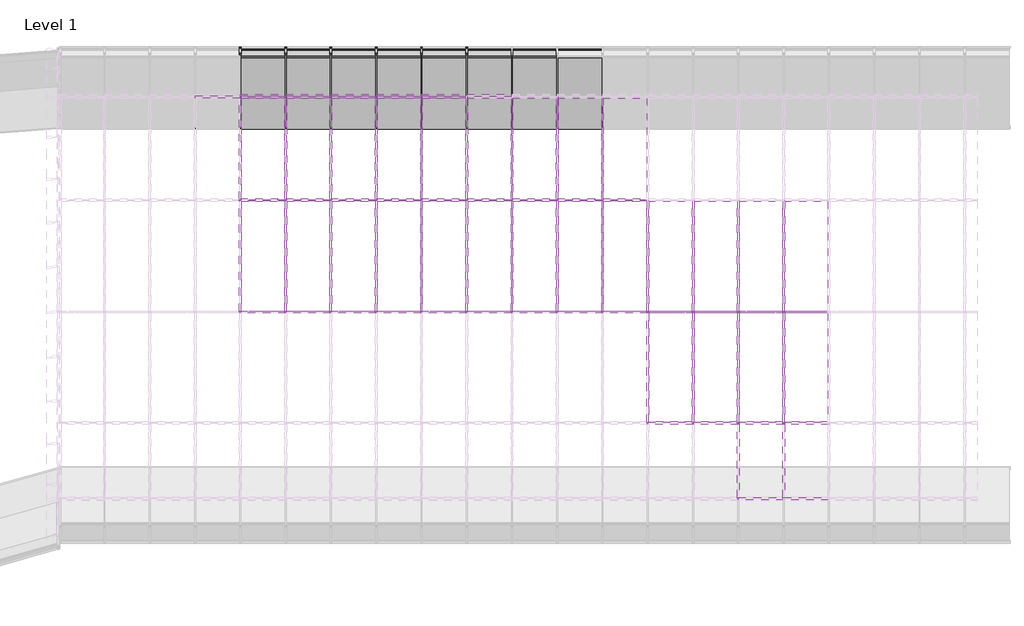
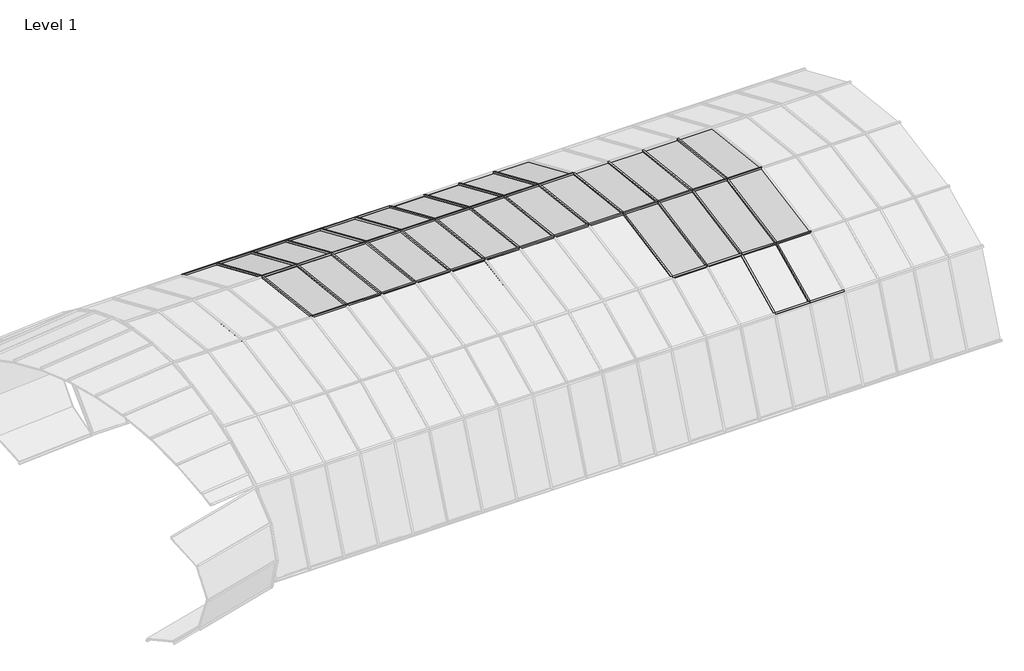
# One storey, part 19 of 23: 80 members, 41 plates.
"""IFC4 building model written with IfcOpenShell, lengths in millimetres."""

from ifc_helpers import new_model, si_unit, origin, place, context, project, spatial, transform, mapped, element, save
from components import member_68981e21, member_3e1f1dd8, member_14e241b9, member_67cfadff, member_309acb9e, member_0f8f75f6, system_panel_glazed_51f493bd, system_panel_glazed_6e806f8e, system_panel_glazed_3957fabc

model = new_model("IFC4")

# Units and contexts
model_context = context("Model", 3, world=origin())
ifc_project = project(units=[si_unit("LENGTHUNIT", "METRE", prefix="MILLI")], contexts=[model_context])

# Site, building, storey
site = spatial("IfcSite", under=ifc_project)
building = spatial("IfcBuilding", under=site)
storey = spatial("IfcBuildingStorey", under=building, Name="Level 1", Elevation=0.0)

# Members
placement = place(None, origin())
member_shape = member_68981e21(model_context)
element("IfcMember", 1, ObjectType="Rectangular Mullion : 1\" Square", at=placement, inside=storey, context=model_context, shape_type="MappedRepresentation", body=[
    mapped(member_shape, transform((-768.9499814, 2108.5088854, 2085.6089632), x_axis=(0.0, -0.9009025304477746, -0.4340214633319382), y_axis=(0.0, -0.4340214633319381, 0.9009025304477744), z_axis=(-1.0, 0.0, 0.0))),
])
element("IfcMember", 2, ObjectType="Rectangular Mullion : 1\" Square", at=placement, inside=storey, context=model_context, shape_type="MappedRepresentation", body=[
    mapped(member_shape, transform((-159.3499814, 2108.5088854, 2085.6089632), x_axis=(0.0, -0.9009025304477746, -0.4340214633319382), y_axis=(0.0, -0.4340214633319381, 0.9009025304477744), z_axis=(-1.0, 0.0, 0.0))),
])
element("IfcMember", 3, ObjectType="Rectangular Mullion : 1\" Square", at=placement, inside=storey, context=model_context, shape_type="MappedRepresentation", body=[
    mapped(member_shape, transform((-7474.5499814, 7543.2525753, 2085.6089632), x_axis=(0.0, 0.9167487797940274, -0.39946423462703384), y_axis=(0.0, 0.39946423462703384, 0.9167487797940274), z_axis=(1.0, 0.0, 0.0))),
])
element("IfcMember", 4, ObjectType="Rectangular Mullion : 1\" Square", at=placement, inside=storey, context=model_context, shape_type="MappedRepresentation", body=[
    mapped(member_shape, transform((-6864.9499814, 7543.2525753, 2085.6089632), x_axis=(0.0, 0.9167487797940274, -0.39946423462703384), y_axis=(0.0, 0.39946423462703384, 0.9167487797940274), z_axis=(1.0, 0.0, 0.0))),
])
element("IfcMember", 5, ObjectType="Rectangular Mullion : 1\" Square", at=placement, inside=storey, context=model_context, shape_type="MappedRepresentation", body=[
    mapped(member_shape, transform((-6255.3499814, 7543.2525753, 2085.6089632), x_axis=(0.0, 0.9167487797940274, -0.39946423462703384), y_axis=(0.0, 0.39946423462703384, 0.9167487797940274), z_axis=(1.0, 0.0, 0.0))),
])
element("IfcMember", 6, ObjectType="Rectangular Mullion : 1\" Square", at=placement, inside=storey, context=model_context, shape_type="MappedRepresentation", body=[
    mapped(member_shape, transform((-5645.7499814, 7543.2525753, 2085.6089632), x_axis=(0.0, 0.9167487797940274, -0.39946423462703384), y_axis=(0.0, 0.39946423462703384, 0.9167487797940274), z_axis=(1.0, 0.0, 0.0))),
])
element("IfcMember", 7, ObjectType="Rectangular Mullion : 1\" Square", at=placement, inside=storey, context=model_context, shape_type="MappedRepresentation", body=[
    mapped(member_shape, transform((-5036.1499814, 7543.2525753, 2085.6089632), x_axis=(0.0, 0.9167487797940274, -0.39946423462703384), y_axis=(0.0, 0.39946423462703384, 0.9167487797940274), z_axis=(1.0, 0.0, 0.0))),
])
element("IfcMember", 8, ObjectType="Rectangular Mullion : 1\" Square", at=placement, inside=storey, context=model_context, shape_type="MappedRepresentation", body=[
    mapped(member_shape, transform((-4426.5499814, 7543.2525753, 2085.6089632), x_axis=(0.0, 0.9167487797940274, -0.39946423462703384), y_axis=(0.0, 0.39946423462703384, 0.9167487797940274), z_axis=(1.0, 0.0, 0.0))),
])
element("IfcMember", 9, ObjectType="Rectangular Mullion : 1\" Square", at=placement, inside=storey, context=model_context, shape_type="MappedRepresentation", body=[
    mapped(member_shape, transform((-7474.5499814, 7111.8807303, 0.0), x_axis=(0.0, -0.713412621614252, -0.7007441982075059), y_axis=(0.0, 0.7007441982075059, -0.713412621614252), z_axis=(1.0, 0.0, 0.0))),
])
element("IfcMember", 10, ObjectType="Rectangular Mullion : 1\" Square", at=placement, inside=storey, context=model_context, shape_type="MappedRepresentation", body=[
    mapped(member_shape, transform((-6864.9499814, 7111.8807303, 0.0), x_axis=(0.0, -0.713412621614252, -0.7007441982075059), y_axis=(0.0, 0.7007441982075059, -0.713412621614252), z_axis=(1.0, 0.0, 0.0))),
])
element("IfcMember", 11, ObjectType="Rectangular Mullion : 1\" Square", at=placement, inside=storey, context=model_context, shape_type="MappedRepresentation", body=[
    mapped(member_shape, transform((-6255.3499814, 7111.8807303, 0.0), x_axis=(0.0, -0.713412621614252, -0.7007441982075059), y_axis=(0.0, 0.7007441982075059, -0.713412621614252), z_axis=(1.0, 0.0, 0.0))),
])
element("IfcMember", 12, ObjectType="Rectangular Mullion : 1\" Square", at=placement, inside=storey, context=model_context, shape_type="MappedRepresentation", body=[
    mapped(member_shape, transform((-5645.7499814, 7111.8807303, 0.0), x_axis=(0.0, -0.713412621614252, -0.7007441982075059), y_axis=(0.0, 0.7007441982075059, -0.713412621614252), z_axis=(1.0, 0.0, 0.0))),
])
element("IfcMember", 13, ObjectType="Rectangular Mullion : 1\" Square", at=placement, inside=storey, context=model_context, shape_type="MappedRepresentation", body=[
    mapped(member_shape, transform((-5036.1499814, 7111.8807303, 0.0), x_axis=(0.0, -0.713412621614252, -0.7007441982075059), y_axis=(0.0, 0.7007441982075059, -0.713412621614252), z_axis=(1.0, 0.0, 0.0))),
])
element("IfcMember", 14, ObjectType="Rectangular Mullion : 1\" Square", at=placement, inside=storey, context=model_context, shape_type="MappedRepresentation", body=[
    mapped(member_shape, transform((-4426.5499814, 7111.8807303, 0.0), x_axis=(0.0, -0.713412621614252, -0.7007441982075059), y_axis=(0.0, 0.7007441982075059, -0.713412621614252), z_axis=(1.0, 0.0, 0.0))),
])
member_2_shape = member_3e1f1dd8(model_context)
element("IfcMember", 15, ObjectType="Rectangular Mullion : 1\" Square", at=placement, inside=storey, context=model_context, shape_type="MappedRepresentation", body=[
    mapped(member_2_shape, transform((-7474.5499814, 4631.6132499, 2864.1651971), x_axis=(0.0, -0.9992773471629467, -0.038010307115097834), y_axis=(0.0, -0.038010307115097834, 0.9992773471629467), z_axis=(-1.0, 0.0, 0.0))),
])
element("IfcMember", 16, ObjectType="Rectangular Mullion : 1\" Square", at=placement, inside=storey, context=model_context, shape_type="MappedRepresentation", body=[
    mapped(member_2_shape, transform((-6864.9499814, 4631.6132499, 2864.1651971), x_axis=(0.0, -0.9992773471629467, -0.038010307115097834), y_axis=(0.0, -0.038010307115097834, 0.9992773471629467), z_axis=(-1.0, 0.0, 0.0))),
])
element("IfcMember", 17, ObjectType="Rectangular Mullion : 1\" Square", at=placement, inside=storey, context=model_context, shape_type="MappedRepresentation", body=[
    mapped(member_2_shape, transform((-6255.3499814, 4631.6132499, 2864.1651971), x_axis=(0.0, -0.9992773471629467, -0.038010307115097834), y_axis=(0.0, -0.038010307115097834, 0.9992773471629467), z_axis=(-1.0, 0.0, 0.0))),
])
element("IfcMember", 18, ObjectType="Rectangular Mullion : 1\" Square", at=placement, inside=storey, context=model_context, shape_type="MappedRepresentation", body=[
    mapped(member_2_shape, transform((-5645.7499814, 4631.6132499, 2864.1651971), x_axis=(0.0, -0.9992773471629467, -0.038010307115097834), y_axis=(0.0, -0.038010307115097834, 0.9992773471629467), z_axis=(-1.0, 0.0, 0.0))),
])
element("IfcMember", 19, ObjectType="Rectangular Mullion : 1\" Square", at=placement, inside=storey, context=model_context, shape_type="MappedRepresentation", body=[
    mapped(member_2_shape, transform((-5036.1499814, 4631.6132499, 2864.1651971), x_axis=(0.0, -0.9992773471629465, -0.038010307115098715), y_axis=(0.0, -0.038010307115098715, 0.9992773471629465), z_axis=(-1.0, 0.0, 0.0))),
])
element("IfcMember", 20, ObjectType="Rectangular Mullion : 1\" Square", at=placement, inside=storey, context=model_context, shape_type="MappedRepresentation", body=[
    mapped(member_2_shape, transform((-4426.5499814, 4631.6132499, 2864.1651971), x_axis=(0.0, -0.9992773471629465, -0.038010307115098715), y_axis=(0.0, -0.038010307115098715, 0.9992773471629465), z_axis=(-1.0, 0.0, 0.0))),
])
element("IfcMember", 21, ObjectType="Rectangular Mullion : 1\" Square", at=placement, inside=storey, context=model_context, shape_type="MappedRepresentation", body=[
    mapped(member_2_shape, transform((-3816.9499814, 4631.6132499, 2864.1651971), x_axis=(0.0, -0.9992773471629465, -0.038010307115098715), y_axis=(0.0, -0.038010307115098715, 0.9992773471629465), z_axis=(-1.0, 0.0, 0.0))),
])
element("IfcMember", 22, ObjectType="Rectangular Mullion : 1\" Square", at=placement, inside=storey, context=model_context, shape_type="MappedRepresentation", body=[
    mapped(member_2_shape, transform((-3207.3499814, 4631.6132499, 2864.1651971), x_axis=(0.0, -0.9992773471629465, -0.038010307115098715), y_axis=(0.0, -0.038010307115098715, 0.9992773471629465), z_axis=(-1.0, 0.0, 0.0))),
])
element("IfcMember", 23, ObjectType="Rectangular Mullion : 1\" Square", at=placement, inside=storey, context=model_context, shape_type="MappedRepresentation", body=[
    mapped(member_2_shape, transform((-2597.7499814, 4631.6132499, 2864.1651971), x_axis=(0.0, -0.9992773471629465, -0.038010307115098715), y_axis=(0.0, -0.038010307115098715, 0.9992773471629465), z_axis=(-1.0, 0.0, 0.0))),
])
element("IfcMember", 24, ObjectType="Rectangular Mullion : 1\" Square", at=placement, inside=storey, context=model_context, shape_type="MappedRepresentation", body=[
    mapped(member_2_shape, transform((-1988.1499814, 4631.6132499, 2864.1651971), x_axis=(0.0, -0.9992773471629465, -0.038010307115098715), y_axis=(0.0, -0.038010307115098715, 0.9992773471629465), z_axis=(-1.0, 0.0, 0.0))),
])
element("IfcMember", 25, ObjectType="Rectangular Mullion : 1\" Square", at=placement, inside=storey, context=model_context, shape_type="MappedRepresentation", body=[
    mapped(member_2_shape, transform((-1378.5499814, 4631.6132499, 2864.1651971), x_axis=(0.0, -0.9992773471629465, -0.038010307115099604), y_axis=(0.0, -0.038010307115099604, 0.9992773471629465), z_axis=(-1.0, 0.0, 0.0))),
])
element("IfcMember", 26, ObjectType="Rectangular Mullion : 1\" Square", at=placement, inside=storey, context=model_context, shape_type="MappedRepresentation", body=[
    mapped(member_2_shape, transform((-768.9499814, 4631.6132499, 2864.1651971), x_axis=(0.0, -0.9992773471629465, -0.038010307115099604), y_axis=(0.0, -0.038010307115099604, 0.9992773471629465), z_axis=(-1.0, 0.0, 0.0))),
])
element("IfcMember", 27, ObjectType="Rectangular Mullion : 1\" Square", at=placement, inside=storey, context=model_context, shape_type="MappedRepresentation", body=[
    mapped(member_2_shape, transform((-159.3499814, 4631.6132499, 2864.1651971), x_axis=(0.0, -0.9992773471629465, -0.038010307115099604), y_axis=(0.0, -0.038010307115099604, 0.9992773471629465), z_axis=(-1.0, 0.0, 0.0))),
])
element("IfcMember", 28, ObjectType="Rectangular Mullion : 1\" Square", at=placement, inside=storey, context=model_context, shape_type="MappedRepresentation", body=[
    mapped(member_2_shape, transform((-1988.1499814, 3134.3722562, 2579.8319299), x_axis=(0.0, -0.9436447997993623, -0.3309599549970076), y_axis=(0.0, -0.3309599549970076, 0.9436447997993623), z_axis=(-1.0, 0.0, 0.0))),
])
element("IfcMember", 29, ObjectType="Rectangular Mullion : 1\" Square", at=placement, inside=storey, context=model_context, shape_type="MappedRepresentation", body=[
    mapped(member_2_shape, transform((-1378.5499814, 3134.3722562, 2579.8319299), x_axis=(0.0, -0.9436447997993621, -0.3309599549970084), y_axis=(0.0, -0.3309599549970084, 0.9436447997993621), z_axis=(-1.0, 0.0, 0.0))),
])
element("IfcMember", 30, ObjectType="Rectangular Mullion : 1\" Square", at=placement, inside=storey, context=model_context, shape_type="MappedRepresentation", body=[
    mapped(member_2_shape, transform((-768.9499814, 3134.3722562, 2579.8319299), x_axis=(0.0, -0.9436447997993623, -0.3309599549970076), y_axis=(0.0, -0.3309599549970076, 0.9436447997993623), z_axis=(-1.0, 0.0, 0.0))),
])
element("IfcMember", 31, ObjectType="Rectangular Mullion : 1\" Square", at=placement, inside=storey, context=model_context, shape_type="MappedRepresentation", body=[
    mapped(member_2_shape, transform((-159.3499814, 3134.3722562, 2579.8319299), x_axis=(0.0, -0.9436447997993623, -0.3309599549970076), y_axis=(0.0, -0.3309599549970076, 0.9436447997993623), z_axis=(-1.0, 0.0, 0.0))),
])
element("IfcMember", 32, ObjectType="Rectangular Mullion : 1\" Square", at=placement, inside=storey, context=model_context, shape_type="MappedRepresentation", body=[
    mapped(member_shape, transform((-7474.5499814, 7543.2525753, 2085.6089632), x_axis=(0.0, -0.5417212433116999, 0.8405582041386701), y_axis=(0.0, 0.8405582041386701, 0.5417212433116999), z_axis=(-1.0, 0.0, 0.0))),
])
element("IfcMember", 33, ObjectType="Rectangular Mullion : 1\" Square", at=placement, inside=storey, context=model_context, shape_type="MappedRepresentation", body=[
    mapped(member_shape, transform((-6864.9499814, 7543.2525753, 2085.6089632), x_axis=(0.0, -0.5417212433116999, 0.8405582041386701), y_axis=(0.0, 0.8405582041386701, 0.5417212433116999), z_axis=(-1.0, 0.0, 0.0))),
])
element("IfcMember", 34, ObjectType="Rectangular Mullion : 1\" Square", at=placement, inside=storey, context=model_context, shape_type="MappedRepresentation", body=[
    mapped(member_shape, transform((-6255.3499814, 7543.2525753, 2085.6089632), x_axis=(0.0, -0.5417212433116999, 0.8405582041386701), y_axis=(0.0, 0.8405582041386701, 0.5417212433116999), z_axis=(-1.0, 0.0, 0.0))),
])
element("IfcMember", 35, ObjectType="Rectangular Mullion : 1\" Square", at=placement, inside=storey, context=model_context, shape_type="MappedRepresentation", body=[
    mapped(member_shape, transform((-5645.7499814, 7543.2525753, 2085.6089632), x_axis=(0.0, -0.5417212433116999, 0.8405582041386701), y_axis=(0.0, 0.8405582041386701, 0.5417212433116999), z_axis=(-1.0, 0.0, 0.0))),
])
element("IfcMember", 36, ObjectType="Rectangular Mullion : 1\" Square", at=placement, inside=storey, context=model_context, shape_type="MappedRepresentation", body=[
    mapped(member_shape, transform((-5036.1499814, 7543.2525753, 2085.6089632), x_axis=(0.0, -0.5417212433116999, 0.8405582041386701), y_axis=(0.0, 0.8405582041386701, 0.5417212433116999), z_axis=(-1.0, 0.0, 0.0))),
])
element("IfcMember", 37, ObjectType="Rectangular Mullion : 1\" Square", at=placement, inside=storey, context=model_context, shape_type="MappedRepresentation", body=[
    mapped(member_shape, transform((-4426.5499814, 7543.2525753, 2085.6089632), x_axis=(0.0, -0.5417212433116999, 0.8405582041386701), y_axis=(0.0, 0.8405582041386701, 0.5417212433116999), z_axis=(-1.0, 0.0, 0.0))),
])
element("IfcMember", 38, ObjectType="Rectangular Mullion : 1\" Square", at=placement, inside=storey, context=model_context, shape_type="MappedRepresentation", body=[
    mapped(member_2_shape, transform((-7474.5499814, 6146.1274349, 2694.3924567), x_axis=(0.0, -0.9660596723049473, 0.25831900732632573), y_axis=(0.0, 0.2583190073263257, 0.966059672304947), z_axis=(-1.0, 0.0, 0.0))),
])
element("IfcMember", 39, ObjectType="Rectangular Mullion : 1\" Square", at=placement, inside=storey, context=model_context, shape_type="MappedRepresentation", body=[
    mapped(member_2_shape, transform((-6864.9499814, 6146.1274349, 2694.3924567), x_axis=(0.0, -0.9660596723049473, 0.25831900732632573), y_axis=(0.0, 0.2583190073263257, 0.966059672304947), z_axis=(-1.0, 0.0, 0.0))),
])
element("IfcMember", 40, ObjectType="Rectangular Mullion : 1\" Square", at=placement, inside=storey, context=model_context, shape_type="MappedRepresentation", body=[
    mapped(member_2_shape, transform((-6255.3499814, 6146.1274349, 2694.3924567), x_axis=(0.0, -0.9660596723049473, 0.25831900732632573), y_axis=(0.0, 0.2583190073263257, 0.966059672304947), z_axis=(-1.0, 0.0, 0.0))),
])
element("IfcMember", 41, ObjectType="Rectangular Mullion : 1\" Square", at=placement, inside=storey, context=model_context, shape_type="MappedRepresentation", body=[
    mapped(member_2_shape, transform((-5645.7499814, 6146.1274349, 2694.3924567), x_axis=(0.0, -0.9660596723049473, 0.25831900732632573), y_axis=(0.0, 0.2583190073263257, 0.966059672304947), z_axis=(-1.0, 0.0, 0.0))),
])
element("IfcMember", 42, ObjectType="Rectangular Mullion : 1\" Square", at=placement, inside=storey, context=model_context, shape_type="MappedRepresentation", body=[
    mapped(member_2_shape, transform((-5036.1499814, 6146.1274349, 2694.3924567), x_axis=(0.0, -0.9660596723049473, 0.25831900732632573), y_axis=(0.0, 0.2583190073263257, 0.966059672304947), z_axis=(-1.0, 0.0, 0.0))),
])
element("IfcMember", 43, ObjectType="Rectangular Mullion : 1\" Square", at=placement, inside=storey, context=model_context, shape_type="MappedRepresentation", body=[
    mapped(member_2_shape, transform((-4426.5499814, 6146.1274349, 2694.3924567), x_axis=(0.0, -0.9660596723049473, 0.25831900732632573), y_axis=(0.0, 0.2583190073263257, 0.966059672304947), z_axis=(-1.0, 0.0, 0.0))),
])
element("IfcMember", 44, ObjectType="Rectangular Mullion : 1\" Square", at=placement, inside=storey, context=model_context, shape_type="MappedRepresentation", body=[
    mapped(member_2_shape, transform((-3816.9499814, 6146.1274349, 2694.3924567), x_axis=(0.0, -0.9660596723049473, 0.25831900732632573), y_axis=(0.0, 0.2583190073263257, 0.966059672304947), z_axis=(-1.0, 0.0, 0.0))),
])
element("IfcMember", 45, ObjectType="Rectangular Mullion : 1\" Square", at=placement, inside=storey, context=model_context, shape_type="MappedRepresentation", body=[
    mapped(member_2_shape, transform((-3207.3499814, 6146.1274349, 2694.3924567), x_axis=(0.0, -0.9660596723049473, 0.25831900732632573), y_axis=(0.0, 0.2583190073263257, 0.966059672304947), z_axis=(-1.0, 0.0, 0.0))),
])
element("IfcMember", 46, ObjectType="Rectangular Mullion : 1\" Square", at=placement, inside=storey, context=model_context, shape_type="MappedRepresentation", body=[
    mapped(member_2_shape, transform((-2597.7499814, 6146.1274349, 2694.3924567), x_axis=(0.0, -0.9660596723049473, 0.25831900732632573), y_axis=(0.0, 0.2583190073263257, 0.966059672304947), z_axis=(-1.0, 0.0, 0.0))),
])
member_3_shape = member_14e241b9(model_context)
element("IfcMember", 47, ObjectType="Rectangular Mullion : 1\" Square", at=placement, inside=storey, context=model_context, shape_type="MappedRepresentation", body=[
    mapped(member_3_shape, transform((-768.9499814, 2131.3918096, 2096.6331083), x_axis=(1.0, 0.0, 0.0), y_axis=(0.0, -0.4340214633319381, 0.9009025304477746), z_axis=(0.0, -0.9009025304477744, -0.434021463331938))),
])
element("IfcMember", 48, ObjectType="Rectangular Mullion : 1\" Square", at=placement, inside=storey, context=model_context, shape_type="MappedRepresentation", body=[
    mapped(member_3_shape, transform((-159.3499814, 2131.3918096, 2096.6331083), x_axis=(1.0, 0.0, 0.0), y_axis=(0.0, -0.4340214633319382, 0.9009025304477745), z_axis=(0.0, -0.9009025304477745, -0.4340214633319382))),
])
member_4_shape = member_67cfadff(model_context)
element("IfcMember", 49, ObjectType="Rectangular Mullion : 1\" Square", at=placement, inside=storey, context=model_context, shape_type="MappedRepresentation", body=[
    mapped(member_4_shape, transform((-5036.1499814, 6157.7701444, 2689.3192609), x_axis=(0.9999999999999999, 0.0, 0.0), y_axis=(0.0, 0.3994642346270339, 0.9167487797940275), z_axis=(0.0, -0.9167487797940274, 0.39946423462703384))),
])
element("IfcMember", 50, ObjectType="Rectangular Mullion : 1\" Square", at=placement, inside=storey, context=model_context, shape_type="MappedRepresentation", body=[
    mapped(member_4_shape, transform((-4426.5499814, 6157.7701444, 2689.3192609), x_axis=(0.9999999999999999, 0.0, 0.0), y_axis=(0.0, 0.3994642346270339, 0.9167487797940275), z_axis=(0.0, -0.9167487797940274, 0.39946423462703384))),
])
element("IfcMember", 51, ObjectType="Rectangular Mullion : 1\" Square", at=placement, inside=storey, context=model_context, shape_type="MappedRepresentation", body=[
    mapped(member_4_shape, transform((-3816.9499814, 6157.7701444, 2689.3192609), x_axis=(0.9999999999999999, 0.0, 0.0), y_axis=(0.0, 0.3994642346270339, 0.9167487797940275), z_axis=(0.0, -0.9167487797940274, 0.39946423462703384))),
])
element("IfcMember", 52, ObjectType="Rectangular Mullion : 1\" Square", at=placement, inside=storey, context=model_context, shape_type="MappedRepresentation", body=[
    mapped(member_4_shape, transform((-3207.3499814, 6157.7701444, 2689.3192609), x_axis=(0.9999999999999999, 0.0, 0.0), y_axis=(0.0, 0.3994642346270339, 0.9167487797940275), z_axis=(0.0, -0.9167487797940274, 0.39946423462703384))),
])
element("IfcMember", 53, ObjectType="Rectangular Mullion : 1\" Square", at=placement, inside=storey, context=model_context, shape_type="MappedRepresentation", body=[
    mapped(member_4_shape, transform((-2597.7499814, 6157.7701444, 2689.3192609), x_axis=(0.9999999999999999, 0.0, 0.0), y_axis=(0.0, 0.3994642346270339, 0.9167487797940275), z_axis=(0.0, -0.9167487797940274, 0.39946423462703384))),
])
element("IfcMember", 54, ObjectType="Rectangular Mullion : 1\" Square", at=placement, inside=storey, context=model_context, shape_type="MappedRepresentation", body=[
    mapped(member_4_shape, transform((-6864.9499814, 6157.7701444, 2689.3192609), x_axis=(0.9999999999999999, 0.0, 0.0), y_axis=(0.0, 0.3994642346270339, 0.9167487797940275), z_axis=(0.0, -0.9167487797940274, 0.39946423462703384))),
])
element("IfcMember", 55, ObjectType="Rectangular Mullion : 1\" Square", at=placement, inside=storey, context=model_context, shape_type="MappedRepresentation", body=[
    mapped(member_4_shape, transform((-6255.3499814, 6157.7701444, 2689.3192609), x_axis=(0.9999999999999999, 0.0, 0.0), y_axis=(0.0, 0.3994642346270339, 0.9167487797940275), z_axis=(0.0, -0.9167487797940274, 0.39946423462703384))),
])
element("IfcMember", 56, ObjectType="Rectangular Mullion : 1\" Square", at=placement, inside=storey, context=model_context, shape_type="MappedRepresentation", body=[
    mapped(member_4_shape, transform((-5645.7499814, 6157.7701444, 2689.3192609), x_axis=(0.9999999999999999, 0.0, 0.0), y_axis=(0.0, 0.3994642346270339, 0.9167487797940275), z_axis=(0.0, -0.9167487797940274, 0.39946423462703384))),
])
element("IfcMember", 57, ObjectType="Rectangular Mullion : 1\" Square", at=placement, inside=storey, context=model_context, shape_type="MappedRepresentation", body=[
    mapped(member_4_shape, transform((-7474.5499814, 6157.7701444, 2689.3192609), x_axis=(0.9999999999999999, 0.0, 0.0), y_axis=(0.0, 0.3994642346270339, 0.9167487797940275), z_axis=(0.0, -0.9167487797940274, 0.39946423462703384))),
])
member_5_shape = member_309acb9e(model_context)
element("IfcMember", 58, ObjectType="Rectangular Mullion : 1\" Square", at=placement, inside=storey, context=model_context, shape_type="MappedRepresentation", body=[
    mapped(member_5_shape, transform((-1988.1499814, 4644.2342014, 2862.7504243), x_axis=(1.0, 0.0, 0.0), y_axis=(0.0, 0.11139943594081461, 0.993775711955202), z_axis=(0.0, -0.9937757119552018, 0.11139943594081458))),
])
element("IfcMember", 59, ObjectType="Rectangular Mullion : 1\" Square", at=placement, inside=storey, context=model_context, shape_type="MappedRepresentation", body=[
    mapped(member_5_shape, transform((-1378.5499814, 4644.2342014, 2862.7504243), x_axis=(1.0, 0.0, 0.0), y_axis=(0.0, 0.11139943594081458, 0.9937757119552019), z_axis=(0.0, -0.9937757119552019, 0.11139943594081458))),
])
element("IfcMember", 60, ObjectType="Rectangular Mullion : 1\" Square", at=placement, inside=storey, context=model_context, shape_type="MappedRepresentation", body=[
    mapped(member_5_shape, transform((-768.9499814, 4644.2342014, 2862.7504243), x_axis=(1.0, 0.0, 0.0), y_axis=(0.0, 0.11139943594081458, 0.9937757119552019), z_axis=(0.0, -0.9937757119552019, 0.11139943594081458))),
])
element("IfcMember", 61, ObjectType="Rectangular Mullion : 1\" Square", at=placement, inside=storey, context=model_context, shape_type="MappedRepresentation", body=[
    mapped(member_5_shape, transform((-5645.7499814, 4644.2342014, 2862.7504243), x_axis=(0.9999999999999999, 0.0, 0.0), y_axis=(0.0, 0.1113994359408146, 0.9937757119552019), z_axis=(0.0, -0.9937757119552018, 0.11139943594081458))),
])
element("IfcMember", 62, ObjectType="Rectangular Mullion : 1\" Square", at=placement, inside=storey, context=model_context, shape_type="MappedRepresentation", body=[
    mapped(member_5_shape, transform((-5036.1499814, 4644.2342014, 2862.7504243), x_axis=(1.0, 0.0, 0.0), y_axis=(0.0, 0.11139943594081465, 0.993775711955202), z_axis=(0.0, -0.9937757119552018, 0.11139943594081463))),
])
element("IfcMember", 63, ObjectType="Rectangular Mullion : 1\" Square", at=placement, inside=storey, context=model_context, shape_type="MappedRepresentation", body=[
    mapped(member_5_shape, transform((-4426.5499814, 4644.2342014, 2862.7504243), x_axis=(1.0, 0.0, 0.0), y_axis=(0.0, 0.11139943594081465, 0.993775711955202), z_axis=(0.0, -0.9937757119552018, 0.11139943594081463))),
])
element("IfcMember", 64, ObjectType="Rectangular Mullion : 1\" Square", at=placement, inside=storey, context=model_context, shape_type="MappedRepresentation", body=[
    mapped(member_5_shape, transform((-3816.9499814, 4644.2342014, 2862.7504243), x_axis=(1.0, 0.0, 0.0), y_axis=(0.0, 0.11139943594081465, 0.993775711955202), z_axis=(0.0, -0.9937757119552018, 0.11139943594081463))),
])
element("IfcMember", 65, ObjectType="Rectangular Mullion : 1\" Square", at=placement, inside=storey, context=model_context, shape_type="MappedRepresentation", body=[
    mapped(member_5_shape, transform((-3207.3499814, 4644.2342014, 2862.7504243), x_axis=(1.0, 0.0, 0.0), y_axis=(0.0, 0.11139943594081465, 0.993775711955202), z_axis=(0.0, -0.9937757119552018, 0.11139943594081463))),
])
element("IfcMember", 66, ObjectType="Rectangular Mullion : 1\" Square", at=placement, inside=storey, context=model_context, shape_type="MappedRepresentation", body=[
    mapped(member_5_shape, transform((-2597.7499814, 4644.2342014, 2862.7504243), x_axis=(1.0, 0.0, 0.0), y_axis=(0.0, 0.11139943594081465, 0.993775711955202), z_axis=(0.0, -0.9937757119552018, 0.11139943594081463))),
])
element("IfcMember", 67, ObjectType="Rectangular Mullion : 1\" Square", at=placement, inside=storey, context=model_context, shape_type="MappedRepresentation", body=[
    mapped(member_5_shape, transform((-159.3499814, 4644.2342014, 2862.7504243), x_axis=(1.0, 0.0, 0.0), y_axis=(0.0, 0.11139943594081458, 0.9937757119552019), z_axis=(0.0, -0.9937757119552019, 0.11139943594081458))),
])
element("IfcMember", 68, ObjectType="Rectangular Mullion : 1\" Square", at=placement, inside=storey, context=model_context, shape_type="MappedRepresentation", body=[
    mapped(member_5_shape, transform((-6864.9499814, 4644.2342014, 2862.7504243), x_axis=(0.9999999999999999, 0.0, 0.0), y_axis=(0.0, 0.1113994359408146, 0.9937757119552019), z_axis=(0.0, -0.9937757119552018, 0.11139943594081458))),
])
element("IfcMember", 69, ObjectType="Rectangular Mullion : 1\" Square", at=placement, inside=storey, context=model_context, shape_type="MappedRepresentation", body=[
    mapped(member_5_shape, transform((-6255.3499814, 4644.2342014, 2862.7504243), x_axis=(0.9999999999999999, 0.0, 0.0), y_axis=(0.0, 0.1113994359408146, 0.9937757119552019), z_axis=(0.0, -0.9937757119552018, 0.11139943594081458))),
])
element("IfcMember", 70, ObjectType="Rectangular Mullion : 1\" Square", at=placement, inside=storey, context=model_context, shape_type="MappedRepresentation", body=[
    mapped(member_5_shape, transform((-7474.5499814, 4644.2342014, 2862.7504243), x_axis=(0.9999999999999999, 0.0, 0.0), y_axis=(0.0, 0.1113994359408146, 0.9937757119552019), z_axis=(0.0, -0.9937757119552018, 0.11139943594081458))),
])
element("IfcMember", 71, ObjectType="Rectangular Mullion : 1\" Square", at=placement, inside=storey, context=model_context, shape_type="MappedRepresentation", body=[
    mapped(member_5_shape, transform((-1988.1499814, 3146.8492645, 2582.2013738), x_axis=(0.9999999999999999, 0.0, 0.0), y_axis=(0.0, -0.18657038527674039, 0.9824415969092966), z_axis=(0.0, -0.9824415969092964, -0.18657038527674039))),
])
element("IfcMember", 72, ObjectType="Rectangular Mullion : 1\" Square", at=placement, inside=storey, context=model_context, shape_type="MappedRepresentation", body=[
    mapped(member_5_shape, transform((-1378.5499814, 3146.8492645, 2582.2013738), x_axis=(0.9999999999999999, 0.0, 0.0), y_axis=(0.0, -0.18657038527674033, 0.9824415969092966), z_axis=(0.0, -0.9824415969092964, -0.18657038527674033))),
])
element("IfcMember", 73, ObjectType="Rectangular Mullion : 1\" Square", at=placement, inside=storey, context=model_context, shape_type="MappedRepresentation", body=[
    mapped(member_5_shape, transform((-768.9499814, 3146.8492645, 2582.2013738), x_axis=(0.9999999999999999, 0.0, 0.0), y_axis=(0.0, -0.18657038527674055, 0.9824415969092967), z_axis=(0.0, -0.9824415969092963, -0.1865703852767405))),
])
element("IfcMember", 74, ObjectType="Rectangular Mullion : 1\" Square", at=placement, inside=storey, context=model_context, shape_type="MappedRepresentation", body=[
    mapped(member_5_shape, transform((-159.3499814, 3146.8492645, 2582.2013738), x_axis=(0.9999999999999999, 0.0, 0.0), y_axis=(0.0, -0.18657038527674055, 0.9824415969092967), z_axis=(0.0, -0.9824415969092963, -0.1865703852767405))),
])
member_6_shape = member_0f8f75f6(model_context)
element("IfcMember", 75, ObjectType="Rectangular Mullion : 1\" Square", at=placement, inside=storey, context=model_context, shape_type="MappedRepresentation", body=[
    mapped(member_6_shape, transform((-6255.3499814, 7557.0122949, 2064.2587848), x_axis=(0.9999999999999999, 0.0, 0.0), y_axis=(0.0, 0.8405582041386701, 0.5417212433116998), z_axis=(0.0, -0.5417212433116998, 0.84055820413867))),
])
element("IfcMember", 76, ObjectType="Rectangular Mullion : 1\" Square", at=placement, inside=storey, context=model_context, shape_type="MappedRepresentation", body=[
    mapped(member_6_shape, transform((-6864.9499814, 7557.0122949, 2064.2587848), x_axis=(1.0, 0.0, 0.0), y_axis=(0.0, 0.8405582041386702, 0.5417212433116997), z_axis=(0.0, -0.5417212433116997, 0.8405582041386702))),
])
element("IfcMember", 77, ObjectType="Rectangular Mullion : 1\" Square", at=placement, inside=storey, context=model_context, shape_type="MappedRepresentation", body=[
    mapped(member_6_shape, transform((-7474.5499814, 7557.0122949, 2064.2587848), x_axis=(1.0, 0.0, 0.0), y_axis=(0.0, 0.8405582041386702, 0.5417212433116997), z_axis=(0.0, -0.5417212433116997, 0.8405582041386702))),
])
element("IfcMember", 78, ObjectType="Rectangular Mullion : 1\" Square", at=placement, inside=storey, context=model_context, shape_type="MappedRepresentation", body=[
    mapped(member_6_shape, transform((-4426.5499814, 7557.0122949, 2064.2587848), x_axis=(1.0, 0.0, 0.0), y_axis=(0.0, 0.8405582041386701, 0.5417212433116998), z_axis=(0.0, -0.5417212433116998, 0.8405582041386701))),
])
element("IfcMember", 79, ObjectType="Rectangular Mullion : 1\" Square", at=placement, inside=storey, context=model_context, shape_type="MappedRepresentation", body=[
    mapped(member_6_shape, transform((-5036.1499814, 7557.0122949, 2064.2587848), x_axis=(1.0, 0.0, 0.0), y_axis=(0.0, 0.8405582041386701, 0.5417212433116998), z_axis=(0.0, -0.5417212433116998, 0.8405582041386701))),
])
element("IfcMember", 80, ObjectType="Rectangular Mullion : 1\" Square", at=placement, inside=storey, context=model_context, shape_type="MappedRepresentation", body=[
    mapped(member_6_shape, transform((-5645.7499814, 7557.0122949, 2064.2587848), x_axis=(1.0, 0.0, 0.0), y_axis=(0.0, 0.8405582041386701, 0.5417212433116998), z_axis=(0.0, -0.5417212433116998, 0.8405582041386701))),
])

# Plates
system_panel_glazed_shape = system_panel_glazed_51f493bd(model_context)
element("IfcPlate", 81, ObjectType="System Panel : Glazed", at=placement, inside=storey, context=model_context, shape_type="MappedRepresentation", body=[
    mapped(system_panel_glazed_shape, transform((-7461.8499814, 6838.8686503, 2392.5373078), x_axis=(0.0, -0.9167487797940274, 0.39946423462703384), y_axis=(0.0, -0.39946423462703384, -0.9167487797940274), z_axis=(1.0, 0.0, 0.0))),
])
element("IfcPlate", 82, ObjectType="System Panel : Glazed", at=placement, inside=storey, context=model_context, shape_type="MappedRepresentation", body=[
    mapped(system_panel_glazed_shape, transform((-6852.2499814, 6838.8686503, 2392.5373078), x_axis=(0.0, -0.9167487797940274, 0.39946423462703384), y_axis=(0.0, -0.39946423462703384, -0.9167487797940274), z_axis=(1.0, 0.0, 0.0))),
])
element("IfcPlate", 83, ObjectType="System Panel : Glazed", at=placement, inside=storey, context=model_context, shape_type="MappedRepresentation", body=[
    mapped(system_panel_glazed_shape, transform((-6242.6499814, 6838.8686503, 2392.5373078), x_axis=(0.0, -0.9167487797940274, 0.39946423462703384), y_axis=(0.0, -0.39946423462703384, -0.9167487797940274), z_axis=(1.0, 0.0, 0.0))),
])
element("IfcPlate", 84, ObjectType="System Panel : Glazed", at=placement, inside=storey, context=model_context, shape_type="MappedRepresentation", body=[
    mapped(system_panel_glazed_shape, transform((-5633.0499814, 6838.8686503, 2392.5373078), x_axis=(0.0, -0.9167487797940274, 0.39946423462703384), y_axis=(0.0, -0.39946423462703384, -0.9167487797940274), z_axis=(1.0, 0.0, 0.0))),
])
element("IfcPlate", 85, ObjectType="System Panel : Glazed", at=placement, inside=storey, context=model_context, shape_type="MappedRepresentation", body=[
    mapped(system_panel_glazed_shape, transform((-5023.4499814, 6838.8686503, 2392.5373078), x_axis=(0.0, -0.9167487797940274, 0.39946423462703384), y_axis=(0.0, -0.39946423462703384, -0.9167487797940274), z_axis=(1.0, 0.0, 0.0))),
])
element("IfcPlate", 86, ObjectType="System Panel : Glazed", at=placement, inside=storey, context=model_context, shape_type="MappedRepresentation", body=[
    mapped(system_panel_glazed_shape, transform((-4413.8499814, 6838.8686503, 2392.5373078), x_axis=(0.0, -0.9167487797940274, 0.3994642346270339), y_axis=(0.0, -0.3994642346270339, -0.9167487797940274), z_axis=(1.0, 0.0, 0.0))),
])
element("IfcPlate", 87, ObjectType="System Panel : Glazed", at=placement, inside=storey, context=model_context, shape_type="MappedRepresentation", body=[
    mapped(system_panel_glazed_shape, transform((-3804.2499814, 6838.8686503, 2392.5373078), x_axis=(0.0, -0.9167487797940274, 0.39946423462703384), y_axis=(0.0, -0.39946423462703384, -0.9167487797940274), z_axis=(1.0, 0.0, 0.0))),
])
element("IfcPlate", 88, ObjectType="System Panel : Glazed", at=placement, inside=storey, context=model_context, shape_type="MappedRepresentation", body=[
    mapped(system_panel_glazed_shape, transform((-3194.6499814, 6838.8686503, 2392.5373078), x_axis=(0.0, -0.9167487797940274, 0.39946423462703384), y_axis=(0.0, -0.39946423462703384, -0.9167487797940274), z_axis=(1.0, 0.0, 0.0))),
])
element("IfcPlate", 89, ObjectType="System Panel : Glazed", at=placement, inside=storey, context=model_context, shape_type="MappedRepresentation", body=[
    mapped(system_panel_glazed_shape, transform((-2585.0499814, 6838.8686503, 2392.5373078), x_axis=(0.0, -0.9167487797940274, 0.39946423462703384), y_axis=(0.0, -0.39946423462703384, -0.9167487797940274), z_axis=(1.0, 0.0, 0.0))),
])
element("IfcPlate", 90, ObjectType="System Panel : Glazed", at=placement, inside=storey, context=model_context, shape_type="MappedRepresentation", body=[
    mapped(system_panel_glazed_shape, transform((-7461.8499814, 7660.0313181, 538.4168047), x_axis=(0.0, 0.713412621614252, 0.7007441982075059), y_axis=(0.0, -0.7007441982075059, 0.713412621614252), z_axis=(1.0, 0.0, 0.0))),
])
element("IfcPlate", 91, ObjectType="System Panel : Glazed", at=placement, inside=storey, context=model_context, shape_type="MappedRepresentation", body=[
    mapped(system_panel_glazed_shape, transform((-6852.2499814, 7660.0313181, 538.4168047), x_axis=(0.0, 0.713412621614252, 0.7007441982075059), y_axis=(0.0, -0.7007441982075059, 0.713412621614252), z_axis=(1.0, 0.0, 0.0))),
])
element("IfcPlate", 92, ObjectType="System Panel : Glazed", at=placement, inside=storey, context=model_context, shape_type="MappedRepresentation", body=[
    mapped(system_panel_glazed_shape, transform((-6242.6499814, 7660.0313181, 538.4168047), x_axis=(0.0, 0.713412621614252, 0.7007441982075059), y_axis=(0.0, -0.7007441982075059, 0.713412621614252), z_axis=(1.0, 0.0, 0.0))),
])
element("IfcPlate", 93, ObjectType="System Panel : Glazed", at=placement, inside=storey, context=model_context, shape_type="MappedRepresentation", body=[
    mapped(system_panel_glazed_shape, transform((-5633.0499814, 7660.0313181, 538.4168047), x_axis=(0.0, 0.713412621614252, 0.7007441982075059), y_axis=(0.0, -0.7007441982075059, 0.713412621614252), z_axis=(1.0, 0.0, 0.0))),
])
element("IfcPlate", 94, ObjectType="System Panel : Glazed", at=placement, inside=storey, context=model_context, shape_type="MappedRepresentation", body=[
    mapped(system_panel_glazed_shape, transform((-5023.4499814, 7660.0313181, 538.4168047), x_axis=(0.0, 0.713412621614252, 0.7007441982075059), y_axis=(0.0, -0.7007441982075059, 0.713412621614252), z_axis=(1.0, 0.0, 0.0))),
])
element("IfcPlate", 95, ObjectType="System Panel : Glazed", at=placement, inside=storey, context=model_context, shape_type="MappedRepresentation", body=[
    mapped(system_panel_glazed_shape, transform((-4413.8499814, 7660.0313181, 538.4168047), x_axis=(0.0, 0.7134126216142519, 0.700744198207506), y_axis=(0.0, -0.700744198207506, 0.7134126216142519), z_axis=(1.0, 0.0, 0.0))),
])
element("IfcPlate", 96, ObjectType="System Panel : Glazed", at=placement, inside=storey, context=model_context, shape_type="MappedRepresentation", body=[
    mapped(system_panel_glazed_shape, transform((-3804.2499814, 7660.0313181, 538.4168047), x_axis=(0.0, 0.713412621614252, 0.7007441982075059), y_axis=(0.0, -0.7007441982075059, 0.713412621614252), z_axis=(1.0, 0.0, 0.0))),
])
element("IfcPlate", 97, ObjectType="System Panel : Glazed", at=placement, inside=storey, context=model_context, shape_type="MappedRepresentation", body=[
    mapped(system_panel_glazed_shape, transform((-3194.6499814, 7660.0313181, 538.4168047), x_axis=(0.0, 0.713412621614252, 0.7007441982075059), y_axis=(0.0, -0.7007441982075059, 0.713412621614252), z_axis=(1.0, 0.0, 0.0))),
])
system_panel_glazed_2_shape = system_panel_glazed_6e806f8e(model_context)
element("IfcPlate", 98, ObjectType="System Panel : Glazed", at=placement, inside=storey, context=model_context, shape_type="MappedRepresentation", body=[
    mapped(system_panel_glazed_2_shape, transform((-7461.8499814, 5388.8703424, 2779.2788269), x_axis=(0.0, -0.993775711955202, 0.11139943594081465), y_axis=(0.0, -0.11139943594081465, -0.993775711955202), z_axis=(1.0, 0.0, 0.0))),
])
element("IfcPlate", 99, ObjectType="System Panel : Glazed", at=placement, inside=storey, context=model_context, shape_type="MappedRepresentation", body=[
    mapped(system_panel_glazed_2_shape, transform((-6852.2499814, 5388.8703424, 2779.2788269), x_axis=(0.0, -0.993775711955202, 0.11139943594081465), y_axis=(0.0, -0.11139943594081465, -0.993775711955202), z_axis=(1.0, 0.0, 0.0))),
])
element("IfcPlate", 100, ObjectType="System Panel : Glazed", at=placement, inside=storey, context=model_context, shape_type="MappedRepresentation", body=[
    mapped(system_panel_glazed_2_shape, transform((-6242.6499814, 5388.8703424, 2779.2788269), x_axis=(0.0, -0.993775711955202, 0.11139943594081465), y_axis=(0.0, -0.11139943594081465, -0.993775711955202), z_axis=(1.0, 0.0, 0.0))),
])
element("IfcPlate", 101, ObjectType="System Panel : Glazed", at=placement, inside=storey, context=model_context, shape_type="MappedRepresentation", body=[
    mapped(system_panel_glazed_2_shape, transform((-5633.0499814, 5388.8703424, 2779.2788269), x_axis=(0.0, -0.993775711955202, 0.11139943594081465), y_axis=(0.0, -0.11139943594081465, -0.993775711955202), z_axis=(1.0, 0.0, 0.0))),
])
element("IfcPlate", 102, ObjectType="System Panel : Glazed", at=placement, inside=storey, context=model_context, shape_type="MappedRepresentation", body=[
    mapped(system_panel_glazed_2_shape, transform((-5023.4499814, 5388.8703424, 2779.2788269), x_axis=(0.0, -0.993775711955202, 0.11139943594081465), y_axis=(0.0, -0.11139943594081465, -0.993775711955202), z_axis=(1.0, 0.0, 0.0))),
])
element("IfcPlate", 103, ObjectType="System Panel : Glazed", at=placement, inside=storey, context=model_context, shape_type="MappedRepresentation", body=[
    mapped(system_panel_glazed_2_shape, transform((-4413.8499814, 5388.8703424, 2779.2788269), x_axis=(0.0, -0.993775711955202, 0.11139943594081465), y_axis=(0.0, -0.11139943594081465, -0.993775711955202), z_axis=(1.0, 0.0, 0.0))),
])
element("IfcPlate", 104, ObjectType="System Panel : Glazed", at=placement, inside=storey, context=model_context, shape_type="MappedRepresentation", body=[
    mapped(system_panel_glazed_2_shape, transform((-3804.2499814, 5388.8703424, 2779.2788269), x_axis=(0.0, -0.993775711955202, 0.11139943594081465), y_axis=(0.0, -0.11139943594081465, -0.993775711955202), z_axis=(1.0, 0.0, 0.0))),
])
element("IfcPlate", 105, ObjectType="System Panel : Glazed", at=placement, inside=storey, context=model_context, shape_type="MappedRepresentation", body=[
    mapped(system_panel_glazed_2_shape, transform((-3194.6499814, 5388.8703424, 2779.2788269), x_axis=(0.0, -0.993775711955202, 0.11139943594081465), y_axis=(0.0, -0.11139943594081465, -0.993775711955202), z_axis=(1.0, 0.0, 0.0))),
])
element("IfcPlate", 106, ObjectType="System Panel : Glazed", at=placement, inside=storey, context=model_context, shape_type="MappedRepresentation", body=[
    mapped(system_panel_glazed_2_shape, transform((-2585.0499814, 5388.8703424, 2779.2788269), x_axis=(0.0, -0.993775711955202, 0.11139943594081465), y_axis=(0.0, -0.11139943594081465, -0.993775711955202), z_axis=(1.0, 0.0, 0.0))),
])
element("IfcPlate", 107, ObjectType="System Panel : Glazed", at=placement, inside=storey, context=model_context, shape_type="MappedRepresentation", body=[
    mapped(system_panel_glazed_2_shape, transform((-1975.4499814, 5388.8703424, 2779.2788269), x_axis=(0.0, -0.993775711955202, 0.11139943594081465), y_axis=(0.0, -0.11139943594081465, -0.993775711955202), z_axis=(1.0, 0.0, 0.0))),
])
element("IfcPlate", 108, ObjectType="System Panel : Glazed", at=placement, inside=storey, context=model_context, shape_type="MappedRepresentation", body=[
    mapped(system_panel_glazed_2_shape, transform((-1975.4499814, 3882.992753, 2721.9985635), x_axis=(0.0, -0.9824415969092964, -0.18657038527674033), y_axis=(0.0, 0.18657038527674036, -0.9824415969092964), z_axis=(1.0, 0.0, 0.0))),
])
element("IfcPlate", 109, ObjectType="System Panel : Glazed", at=placement, inside=storey, context=model_context, shape_type="MappedRepresentation", body=[
    mapped(system_panel_glazed_2_shape, transform((-1365.8499814, 5388.8703424, 2779.2788269), x_axis=(0.0, -0.993775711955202, 0.11139943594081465), y_axis=(0.0, -0.11139943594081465, -0.993775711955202), z_axis=(1.0, 0.0, 0.0))),
])
element("IfcPlate", 110, ObjectType="System Panel : Glazed", at=placement, inside=storey, context=model_context, shape_type="MappedRepresentation", body=[
    mapped(system_panel_glazed_2_shape, transform((-1365.8499814, 3882.992753, 2721.9985635), x_axis=(0.0, -0.9824415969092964, -0.18657038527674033), y_axis=(0.0, 0.18657038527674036, -0.9824415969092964), z_axis=(1.0, 0.0, 0.0))),
])
element("IfcPlate", 111, ObjectType="System Panel : Glazed", at=placement, inside=storey, context=model_context, shape_type="MappedRepresentation", body=[
    mapped(system_panel_glazed_2_shape, transform((-756.2499814, 5388.8703424, 2779.2788269), x_axis=(0.0, -0.993775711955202, 0.11139943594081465), y_axis=(0.0, -0.11139943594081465, -0.993775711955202), z_axis=(1.0, 0.0, 0.0))),
])
element("IfcPlate", 112, ObjectType="System Panel : Glazed", at=placement, inside=storey, context=model_context, shape_type="MappedRepresentation", body=[
    mapped(system_panel_glazed_2_shape, transform((-756.2499814, 3882.992753, 2721.9985635), x_axis=(0.0, -0.9824415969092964, -0.18657038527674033), y_axis=(0.0, 0.18657038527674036, -0.9824415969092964), z_axis=(1.0, 0.0, 0.0))),
])
element("IfcPlate", 113, ObjectType="System Panel : Glazed", at=placement, inside=storey, context=model_context, shape_type="MappedRepresentation", body=[
    mapped(system_panel_glazed_2_shape, transform((-146.6499814, 5388.8703424, 2779.2788269), x_axis=(0.0, -0.993775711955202, 0.11139943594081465), y_axis=(0.0, -0.11139943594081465, -0.993775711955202), z_axis=(1.0, 0.0, 0.0))),
])
element("IfcPlate", 114, ObjectType="System Panel : Glazed", at=placement, inside=storey, context=model_context, shape_type="MappedRepresentation", body=[
    mapped(system_panel_glazed_2_shape, transform((-146.6499814, 3882.992753, 2721.9985635), x_axis=(0.0, -0.9824415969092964, -0.18657038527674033), y_axis=(0.0, 0.18657038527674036, -0.9824415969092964), z_axis=(1.0, 0.0, 0.0))),
])
system_panel_glazed_3_shape = system_panel_glazed_3957fabc(model_context)
element("IfcPlate", 115, ObjectType="System Panel : Glazed", at=placement, inside=storey, context=model_context, shape_type="MappedRepresentation", body=[
    mapped(system_panel_glazed_3_shape, transform((-7461.8499814, 7874.6270004, 1571.434016), x_axis=(0.0, -0.5417212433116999, 0.8405582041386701), y_axis=(0.0, -0.8405582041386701, -0.5417212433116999), z_axis=(1.0, 0.0, 0.0))),
])
element("IfcPlate", 116, ObjectType="System Panel : Glazed", at=placement, inside=storey, context=model_context, shape_type="MappedRepresentation", body=[
    mapped(system_panel_glazed_3_shape, transform((-6852.2499814, 7874.6270004, 1571.434016), x_axis=(0.0, -0.5417212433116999, 0.8405582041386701), y_axis=(0.0, -0.8405582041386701, -0.5417212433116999), z_axis=(1.0, 0.0, 0.0))),
])
element("IfcPlate", 117, ObjectType="System Panel : Glazed", at=placement, inside=storey, context=model_context, shape_type="MappedRepresentation", body=[
    mapped(system_panel_glazed_3_shape, transform((-6242.6499814, 7874.6270004, 1571.434016), x_axis=(0.0, -0.5417212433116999, 0.8405582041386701), y_axis=(0.0, -0.8405582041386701, -0.5417212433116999), z_axis=(1.0, 0.0, 0.0))),
])
element("IfcPlate", 118, ObjectType="System Panel : Glazed", at=placement, inside=storey, context=model_context, shape_type="MappedRepresentation", body=[
    mapped(system_panel_glazed_3_shape, transform((-5633.0499814, 7874.6270004, 1571.434016), x_axis=(0.0, -0.5417212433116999, 0.8405582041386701), y_axis=(0.0, -0.8405582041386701, -0.5417212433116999), z_axis=(1.0, 0.0, 0.0))),
])
element("IfcPlate", 119, ObjectType="System Panel : Glazed", at=placement, inside=storey, context=model_context, shape_type="MappedRepresentation", body=[
    mapped(system_panel_glazed_3_shape, transform((-5023.4499814, 7874.6270004, 1571.434016), x_axis=(0.0, -0.5417212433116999, 0.8405582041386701), y_axis=(0.0, -0.8405582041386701, -0.5417212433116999), z_axis=(1.0, 0.0, 0.0))),
])
element("IfcPlate", 120, ObjectType="System Panel : Glazed", at=placement, inside=storey, context=model_context, shape_type="MappedRepresentation", body=[
    mapped(system_panel_glazed_3_shape, transform((-4413.8499814, 7874.6270004, 1571.434016), x_axis=(0.0, -0.5417212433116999, 0.8405582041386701), y_axis=(0.0, -0.8405582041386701, -0.5417212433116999), z_axis=(1.0, 0.0, 0.0))),
])
element("IfcPlate", 121, ObjectType="System Panel : Glazed", at=placement, inside=storey, context=model_context, shape_type="MappedRepresentation", body=[
    mapped(system_panel_glazed_3_shape, transform((-3804.2499814, 7874.6270004, 1571.434016), x_axis=(0.0, -0.5417212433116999, 0.8405582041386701), y_axis=(0.0, -0.8405582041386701, -0.5417212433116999), z_axis=(1.0, 0.0, 0.0))),
])

save(model, "model.ifc")
